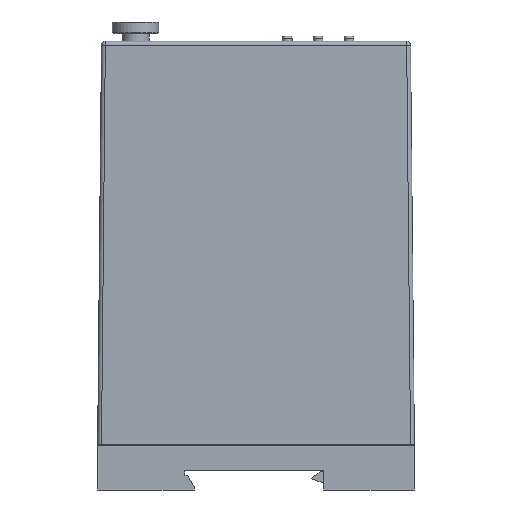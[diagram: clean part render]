
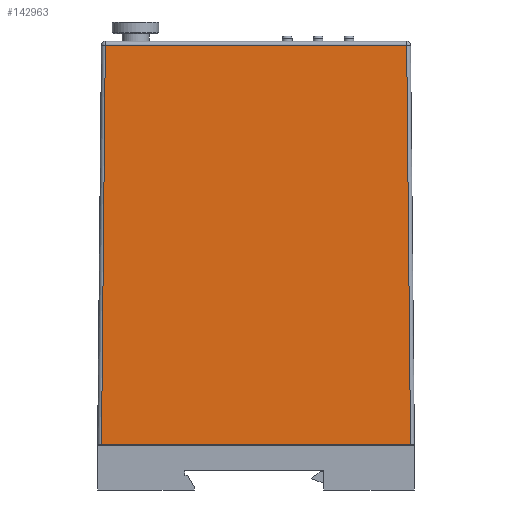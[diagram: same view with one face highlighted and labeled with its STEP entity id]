
A CAD part, left-side view. The second image highlights one B-rep face of the part: STEP entity #142963.
In plain terms, the highlighted planar face has unit normal (-1, 0, 0.017).
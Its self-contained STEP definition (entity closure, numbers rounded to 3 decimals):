
#1233 = VERTEX_POINT ( 'NONE', #167560 ) ;
#24143 = ORIENTED_EDGE ( 'NONE', *, *, #40268, .T. ) ;
#28069 = CARTESIAN_POINT ( 'NONE',  ( 0., 81., 0. ) ) ;
#30679 = PLANE ( 'NONE',  #149978 ) ;
#33108 = EDGE_CURVE ( 'NONE', #74783, #1233, #78643, .T. ) ;
#40268 = EDGE_CURVE ( 'NONE', #1233, #161099, #156497, .T. ) ;
#42108 = VECTOR ( 'NONE', #167781, 1000. ) ;
#58360 = DIRECTION ( 'NONE',  ( 0., -1., 0. ) ) ;
#61268 = DIRECTION ( 'NONE',  ( 0., -1., 0. ) ) ;
#68970 = VECTOR ( 'NONE', #61268, 1000. ) ;
#74783 = VERTEX_POINT ( 'NONE', #92305 ) ;
#78643 = LINE ( 'NONE', #142326, #139116 ) ;
#79403 = ORIENTED_EDGE ( 'NONE', *, *, #83536, .T. ) ;
#83536 = EDGE_CURVE ( 'NONE', #88114, #74783, #105621, .T. ) ;
#84547 = CARTESIAN_POINT ( 'NONE',  ( 1.734, 81., 103.517 ) ) ;
#88114 = VERTEX_POINT ( 'NONE', #28069 ) ;
#92305 = CARTESIAN_POINT ( 'NONE',  ( 0., 1., 0. ) ) ;
#102438 = ORIENTED_EDGE ( 'NONE', *, *, #171872, .T. ) ;
#105107 = EDGE_LOOP ( 'NONE', ( #79403, #124386, #24143, #102438 ) ) ;
#105621 = LINE ( 'NONE', #157818, #68970 ) ;
#119651 = CARTESIAN_POINT ( 'NONE',  ( 1.734, 80.01, 103.517 ) ) ;
#124386 = ORIENTED_EDGE ( 'NONE', *, *, #33108, .T. ) ;
#126118 = LINE ( 'NONE', #170154, #154230 ) ;
#127109 = CARTESIAN_POINT ( 'NONE',  ( 1.75, 0., 104.5 ) ) ;
#129726 = DIRECTION ( 'NONE',  ( -0.017, 0.01, -1. ) ) ;
#133879 = FACE_OUTER_BOUND ( 'NONE', #105107, .T. ) ;
#139116 = VECTOR ( 'NONE', #156226, 1000. ) ;
#141024 = DIRECTION ( 'NONE',  ( 1., 0., -0.017 ) ) ;
#142326 = CARTESIAN_POINT ( 'NONE',  ( 1.75, 2., 104.481 ) ) ;
#142963 = ADVANCED_FACE ( 'NONE', ( #133879 ), #30679, .F. ) ;
#149978 = AXIS2_PLACEMENT_3D ( 'NONE', #127109, #141024, #58360 ) ;
#154230 = VECTOR ( 'NONE', #129726, 1000. ) ;
#156226 = DIRECTION ( 'NONE',  ( 0.017, 0.01, 1. ) ) ;
#156497 = LINE ( 'NONE', #84547, #42108 ) ;
#157818 = CARTESIAN_POINT ( 'NONE',  ( 0., 0., 0. ) ) ;
#161099 = VERTEX_POINT ( 'NONE', #119651 ) ;
#167560 = CARTESIAN_POINT ( 'NONE',  ( 1.734, 1.99, 103.517 ) ) ;
#167781 = DIRECTION ( 'NONE',  ( 0., 1., 0. ) ) ;
#170154 = CARTESIAN_POINT ( 'NONE',  ( 1.763, 79.993, 105.265 ) ) ;
#171872 = EDGE_CURVE ( 'NONE', #161099, #88114, #126118, .T. ) ;
